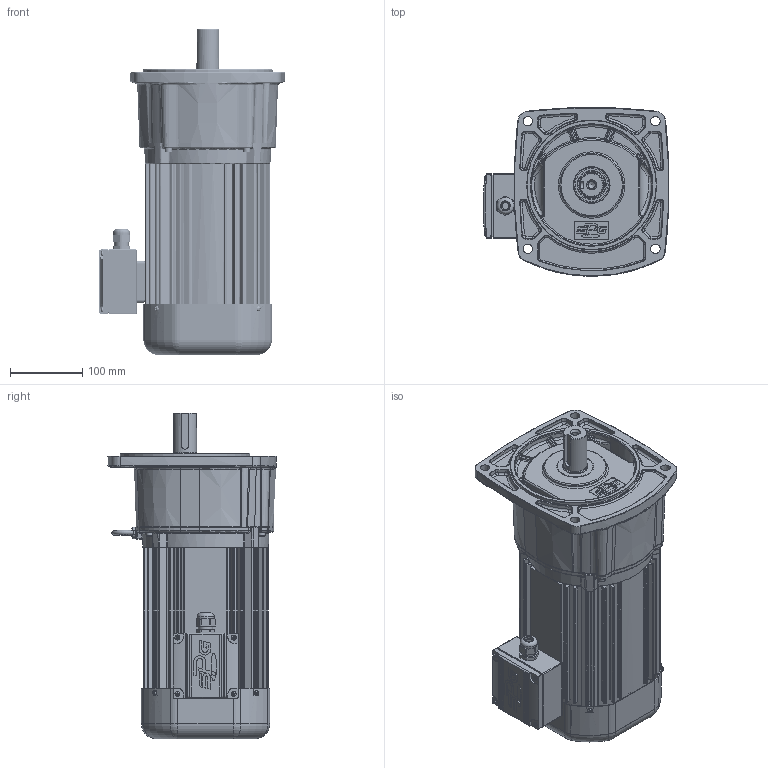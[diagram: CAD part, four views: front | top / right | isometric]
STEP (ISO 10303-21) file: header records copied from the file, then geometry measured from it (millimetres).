
FILE_DESCRIPTION(/* description */ (''),/* implementation_level */ '2;1');
FILE_NAME(/* name */ 'Z:\동력 3D 파일\PAF32_1.5kW_3D.stp',/* time_stamp */ '2021-11-08T15:54:46+09:00',/* author */ ('jaebok'),/* organization */ (''),/* preprocessor_version */ 'ST-DEVELOPER v18.1',/* originating_system */ 'Autodesk Inventor 2022',/* authorisation */ '');
FILE_SCHEMA (('AUTOMOTIVE_DESIGN { 1 0 10303 214 3 1 1 }'));
Products named in the file (1): 부품19
Bounding box: 257.68 x 233.68 x 451.5 mm (x, y, z)
Volume: 3160280.9 mm3; surface area: 954528.3 mm2
Topology: 2 solids, 29 shells, 4024 faces, 10094 edges, 5949 vertices
Faces by surface type: bspline 1184, plane 1096, cylinder 964, torus 362, cone 264, sphere 154
Full cylindrical faces by diameter (mm): 2 x1, 3.25 x1, 3.6 x4, 4 x22, 4.917 x4, 5 x25, 6 x5, 6.5 x4, 6.647 x1, 7 x13, 8 x1, 10 x5, 10.106 x1, 12.5 x1, 15 x1, 20 x2, 20.6 x1, 21 x1, 22 x2, 23.6 x1, 25 x1, 26 x1, 30 x1, 31.96 x1, 32 x1, 32.3 x1, 35 x3, 36 x1, 37 x1, 38 x1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
Entity records: 163922 total; most frequent: CARTESIAN_POINT 72008, ORIENTED_EDGE 19622, DIRECTION 16639, EDGE_CURVE 9811, AXIS2_PLACEMENT_3D 6827, VERTEX_POINT 5947, EDGE_LOOP 4258, FACE_OUTER_BOUND 4024
